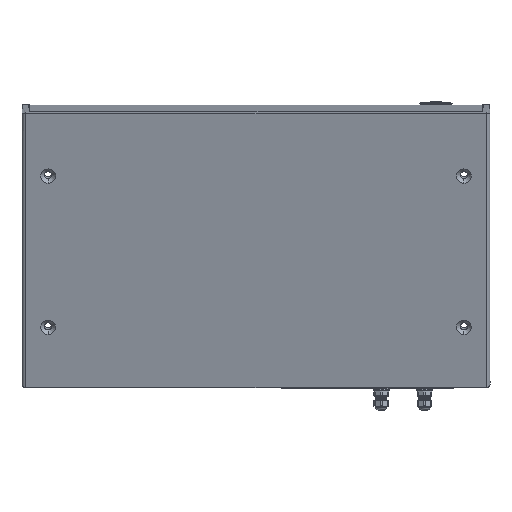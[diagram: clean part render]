
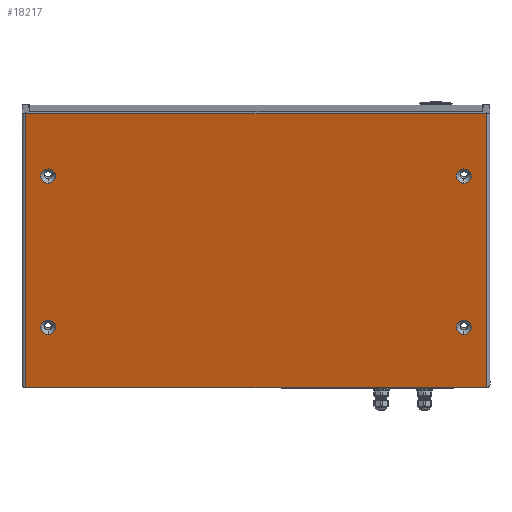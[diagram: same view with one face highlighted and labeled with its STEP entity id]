
A CAD part, left-side view. The second image highlights one B-rep face of the part: STEP entity #18217.
In plain terms, the highlighted planar face has unit normal (-0.966, 0, -0.259) as drawn and (1, 0, 0) by its records, which use the part's own axes.
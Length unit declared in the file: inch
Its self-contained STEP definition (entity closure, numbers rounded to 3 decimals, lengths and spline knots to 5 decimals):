
#11 = VERTEX_POINT ( 'NONE', #23273 ) ;
#45 = DIRECTION ( 'NONE',  ( 0., 0., 1. ) ) ;
#504 = VERTEX_POINT ( 'NONE', #23977 ) ;
#1020 = DIRECTION ( 'NONE',  ( 0., 0., 1. ) ) ;
#1033 = CIRCLE ( 'NONE', #16828, 0.48 ) ;
#1168 = DIRECTION ( 'NONE',  ( -1., 0., 0. ) ) ;
#1348 = FACE_OUTER_BOUND ( 'NONE', #16418, .T. ) ;
#1427 = VERTEX_POINT ( 'NONE', #7011 ) ;
#1453 = CARTESIAN_POINT ( 'NONE',  ( 0., 14.879, 0. ) ) ;
#1503 = VECTOR ( 'NONE', #11723, 39.37008 ) ;
#1788 = CARTESIAN_POINT ( 'NONE',  ( 0., -13.439, 14.1767 ) ) ;
#1934 = DIRECTION ( 'NONE',  ( 0., 0., 1. ) ) ;
#1962 = ORIENTED_EDGE ( 'NONE', *, *, #20010, .T. ) ;
#2101 = EDGE_CURVE ( 'NONE', #16721, #11733, #12027, .T. ) ;
#2748 = ORIENTED_EDGE ( 'NONE', *, *, #9957, .T. ) ;
#3131 = CARTESIAN_POINT ( 'NONE',  ( 0., -13.439, 4.0517 ) ) ;
#3319 = DIRECTION ( 'NONE',  ( 0., 0., -1. ) ) ;
#3485 = EDGE_CURVE ( 'NONE', #25597, #11, #21342, .T. ) ;
#4404 = EDGE_CURVE ( 'NONE', #27345, #19286, #16932, .T. ) ;
#4659 = CARTESIAN_POINT ( 'NONE',  ( 0., 14.879, 18.34794 ) ) ;
#5019 = DIRECTION ( 'NONE',  ( -1., 0., 0. ) ) ;
#5180 = ORIENTED_EDGE ( 'NONE', *, *, #2101, .T. ) ;
#5708 = CIRCLE ( 'NONE', #23023, 0.48 ) ;
#5735 = DIRECTION ( 'NONE',  ( -1., 0., 0. ) ) ;
#5828 = VECTOR ( 'NONE', #3319, 39.37008 ) ;
#5842 = PLANE ( 'NONE',  #18674 ) ;
#5982 = DIRECTION ( 'NONE',  ( 0., 0., 1. ) ) ;
#6554 = EDGE_CURVE ( 'NONE', #504, #22082, #7885, .T. ) ;
#7011 = CARTESIAN_POINT ( 'NONE',  ( 0., -14.879, 18.34794 ) ) ;
#7054 = DIRECTION ( 'NONE',  ( -1., 0., 0. ) ) ;
#7622 = AXIS2_PLACEMENT_3D ( 'NONE', #11285, #20598, #45 ) ;
#7809 = VERTEX_POINT ( 'NONE', #22477 ) ;
#7885 = CIRCLE ( 'NONE', #17965, 0.48 ) ;
#8960 = EDGE_CURVE ( 'NONE', #27020, #1427, #13952, .T. ) ;
#9070 = VECTOR ( 'NONE', #12993, 39.37008 ) ;
#9103 = CIRCLE ( 'NONE', #18201, 0.48 ) ;
#9321 = ORIENTED_EDGE ( 'NONE', *, *, #6554, .T. ) ;
#9848 = DIRECTION ( 'NONE',  ( -1., 0., 0. ) ) ;
#9947 = DIRECTION ( 'NONE',  ( 0., 0., 1. ) ) ;
#9957 = EDGE_CURVE ( 'NONE', #18842, #7809, #12022, .T. ) ;
#10946 = CARTESIAN_POINT ( 'NONE',  ( 0., -13.439, 3.5717 ) ) ;
#11056 = EDGE_LOOP ( 'NONE', ( #11270, #2748 ) ) ;
#11270 = ORIENTED_EDGE ( 'NONE', *, *, #18342, .T. ) ;
#11285 = CARTESIAN_POINT ( 'NONE',  ( 0., 13.439, 4.0517 ) ) ;
#11517 = CARTESIAN_POINT ( 'NONE',  ( 0., 13.439, 14.6567 ) ) ;
#11723 = DIRECTION ( 'NONE',  ( 0., -1., 0. ) ) ;
#11733 = VERTEX_POINT ( 'NONE', #18923 ) ;
#12022 = CIRCLE ( 'NONE', #20643, 0.48 ) ;
#12027 = CIRCLE ( 'NONE', #15850, 0.48 ) ;
#12170 = LINE ( 'NONE', #23853, #5828 ) ;
#12387 = VECTOR ( 'NONE', #23111, 39.37008 ) ;
#12729 = EDGE_LOOP ( 'NONE', ( #18467, #23765 ) ) ;
#12734 = FACE_BOUND ( 'NONE', #15699, .T. ) ;
#12993 = DIRECTION ( 'NONE',  ( 0., 0., -1. ) ) ;
#13386 = CIRCLE ( 'NONE', #7622, 0.48 ) ;
#13475 = DIRECTION ( 'NONE',  ( -1., 0., 0. ) ) ;
#13668 = AXIS2_PLACEMENT_3D ( 'NONE', #28136, #9848, #23197 ) ;
#13952 = LINE ( 'NONE', #4659, #12387 ) ;
#14853 = FACE_BOUND ( 'NONE', #12729, .T. ) ;
#15299 = FACE_BOUND ( 'NONE', #15442, .T. ) ;
#15442 = EDGE_LOOP ( 'NONE', ( #25129, #9321 ) ) ;
#15699 = EDGE_LOOP ( 'NONE', ( #1962, #5180 ) ) ;
#15850 = AXIS2_PLACEMENT_3D ( 'NONE', #18013, #7054, #22675 ) ;
#16032 = DIRECTION ( 'NONE',  ( 0., 0., 1. ) ) ;
#16282 = EDGE_CURVE ( 'NONE', #22082, #504, #13386, .T. ) ;
#16418 = EDGE_LOOP ( 'NONE', ( #26452, #17126, #22483, #24342 ) ) ;
#16721 = VERTEX_POINT ( 'NONE', #11517 ) ;
#16828 = AXIS2_PLACEMENT_3D ( 'NONE', #23881, #5735, #9947 ) ;
#16932 = LINE ( 'NONE', #27766, #1503 ) ;
#17093 = CARTESIAN_POINT ( 'NONE',  ( 0., 14.879, 0. ) ) ;
#17126 = ORIENTED_EDGE ( 'NONE', *, *, #4404, .F. ) ;
#17210 = CARTESIAN_POINT ( 'NONE',  ( 0., 14.879, 0. ) ) ;
#17235 = EDGE_CURVE ( 'NONE', #27020, #27345, #24390, .T. ) ;
#17965 = AXIS2_PLACEMENT_3D ( 'NONE', #27811, #5019, #27659 ) ;
#17988 = CARTESIAN_POINT ( 'NONE',  ( 0., -14.879, 0. ) ) ;
#18013 = CARTESIAN_POINT ( 'NONE',  ( 0., 13.439, 14.1767 ) ) ;
#18201 = AXIS2_PLACEMENT_3D ( 'NONE', #1788, #13475, #16032 ) ;
#18217 = ADVANCED_FACE ( 'NONE', ( #23838, #14853, #15299, #12734, #1348 ), #5842, .F. ) ;
#18342 = EDGE_CURVE ( 'NONE', #7809, #18842, #9103, .T. ) ;
#18467 = ORIENTED_EDGE ( 'NONE', *, *, #3485, .T. ) ;
#18674 = AXIS2_PLACEMENT_3D ( 'NONE', #17093, #23986, #5982 ) ;
#18842 = VERTEX_POINT ( 'NONE', #24248 ) ;
#18923 = CARTESIAN_POINT ( 'NONE',  ( 0., 13.439, 13.6967 ) ) ;
#19286 = VERTEX_POINT ( 'NONE', #17988 ) ;
#20010 = EDGE_CURVE ( 'NONE', #11733, #16721, #1033, .T. ) ;
#20312 = EDGE_CURVE ( 'NONE', #1427, #19286, #12170, .T. ) ;
#20538 = DIRECTION ( 'NONE',  ( -1., 0., 0. ) ) ;
#20598 = DIRECTION ( 'NONE',  ( -1., 0., 0. ) ) ;
#20643 = AXIS2_PLACEMENT_3D ( 'NONE', #25026, #20538, #1934 ) ;
#21342 = CIRCLE ( 'NONE', #13668, 0.48 ) ;
#22082 = VERTEX_POINT ( 'NONE', #22543 ) ;
#22477 = CARTESIAN_POINT ( 'NONE',  ( 0., -13.439, 13.6967 ) ) ;
#22483 = ORIENTED_EDGE ( 'NONE', *, *, #17235, .F. ) ;
#22543 = CARTESIAN_POINT ( 'NONE',  ( 0., 13.439, 3.5717 ) ) ;
#22645 = CARTESIAN_POINT ( 'NONE',  ( 0., 14.879, 18.34794 ) ) ;
#22675 = DIRECTION ( 'NONE',  ( 0., 0., 1. ) ) ;
#23023 = AXIS2_PLACEMENT_3D ( 'NONE', #3131, #1168, #1020 ) ;
#23111 = DIRECTION ( 'NONE',  ( 0., -1., 0. ) ) ;
#23197 = DIRECTION ( 'NONE',  ( 0., 0., 1. ) ) ;
#23273 = CARTESIAN_POINT ( 'NONE',  ( 0., -13.439, 4.5317 ) ) ;
#23765 = ORIENTED_EDGE ( 'NONE', *, *, #28406, .T. ) ;
#23838 = FACE_BOUND ( 'NONE', #11056, .T. ) ;
#23853 = CARTESIAN_POINT ( 'NONE',  ( 0., -14.879, 0. ) ) ;
#23881 = CARTESIAN_POINT ( 'NONE',  ( 0., 13.439, 14.1767 ) ) ;
#23977 = CARTESIAN_POINT ( 'NONE',  ( 0., 13.439, 4.5317 ) ) ;
#23986 = DIRECTION ( 'NONE',  ( -1., 0., 0. ) ) ;
#24248 = CARTESIAN_POINT ( 'NONE',  ( 0., -13.439, 14.6567 ) ) ;
#24342 = ORIENTED_EDGE ( 'NONE', *, *, #8960, .T. ) ;
#24390 = LINE ( 'NONE', #1453, #9070 ) ;
#25026 = CARTESIAN_POINT ( 'NONE',  ( 0., -13.439, 14.1767 ) ) ;
#25129 = ORIENTED_EDGE ( 'NONE', *, *, #16282, .T. ) ;
#25597 = VERTEX_POINT ( 'NONE', #10946 ) ;
#26452 = ORIENTED_EDGE ( 'NONE', *, *, #20312, .T. ) ;
#27020 = VERTEX_POINT ( 'NONE', #22645 ) ;
#27345 = VERTEX_POINT ( 'NONE', #17210 ) ;
#27659 = DIRECTION ( 'NONE',  ( 0., 0., 1. ) ) ;
#27766 = CARTESIAN_POINT ( 'NONE',  ( 0., 14.879, 0. ) ) ;
#27811 = CARTESIAN_POINT ( 'NONE',  ( 0., 13.439, 4.0517 ) ) ;
#28136 = CARTESIAN_POINT ( 'NONE',  ( 0., -13.439, 4.0517 ) ) ;
#28406 = EDGE_CURVE ( 'NONE', #11, #25597, #5708, .T. ) ;
